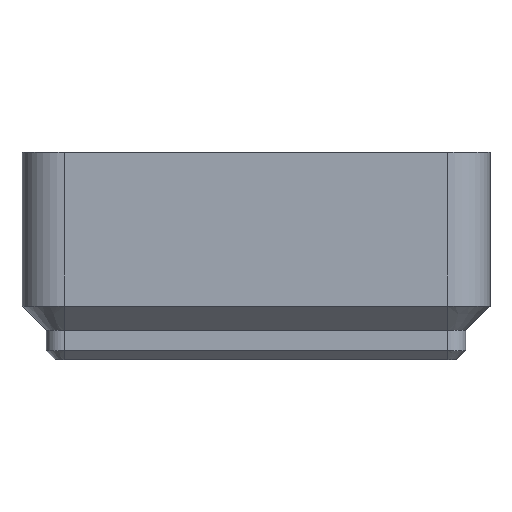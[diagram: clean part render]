
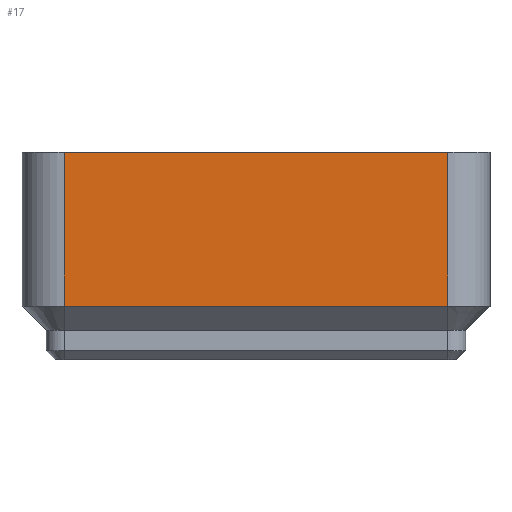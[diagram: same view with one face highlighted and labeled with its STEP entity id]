
A CAD part, left-side view. The second image highlights one B-rep face of the part: STEP entity #17.
In plain terms, the highlighted planar face has unit normal (-1, 0, 0).
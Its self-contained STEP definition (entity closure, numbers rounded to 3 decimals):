
#17 = ADVANCED_FACE('',(#18),#32,.T.);
#18 = FACE_BOUND('',#19,.T.);
#19 = EDGE_LOOP('',(#20,#55,#83,#111));
#20 = ORIENTED_EDGE('',*,*,#21,.T.);
#21 = EDGE_CURVE('',#22,#24,#26,.T.);
#22 = VERTEX_POINT('',#23);
#23 = CARTESIAN_POINT('',(-20.75,-17.,4.75));
#24 = VERTEX_POINT('',#25);
#25 = CARTESIAN_POINT('',(-20.75,-17.,18.4));
#26 = SURFACE_CURVE('',#27,(#31,#43),.PCURVE_S1.);
#27 = LINE('',#28,#29);
#28 = CARTESIAN_POINT('',(-20.75,-17.,4.75));
#29 = VECTOR('',#30,1.);
#30 = DIRECTION('',(0.,0.,1.));
#31 = PCURVE('',#32,#37);
#32 = PLANE('',#33);
#33 = AXIS2_PLACEMENT_3D('',#34,#35,#36);
#34 = CARTESIAN_POINT('',(-20.75,-17.,4.75));
#35 = DIRECTION('',(-1.,0.,0.));
#36 = DIRECTION('',(0.,1.,0.));
#37 = DEFINITIONAL_REPRESENTATION('',(#38),#42);
#38 = LINE('',#39,#40);
#39 = CARTESIAN_POINT('',(0.,0.));
#40 = VECTOR('',#41,1.);
#41 = DIRECTION('',(0.,-1.));
#42 = ( GEOMETRIC_REPRESENTATION_CONTEXT(2) 
PARAMETRIC_REPRESENTATION_CONTEXT() REPRESENTATION_CONTEXT('2D SPACE',''
  ) );
#43 = PCURVE('',#44,#49);
#44 = CYLINDRICAL_SURFACE('',#45,3.75);
#45 = AXIS2_PLACEMENT_3D('',#46,#47,#48);
#46 = CARTESIAN_POINT('',(-17.,-17.,4.75));
#47 = DIRECTION('',(0.,0.,-1.));
#48 = DIRECTION('',(-1.,0.,0.));
#49 = DEFINITIONAL_REPRESENTATION('',(#50),#54);
#50 = LINE('',#51,#52);
#51 = CARTESIAN_POINT('',(6.283,0.));
#52 = VECTOR('',#53,1.);
#53 = DIRECTION('',(0.,-1.));
#54 = ( GEOMETRIC_REPRESENTATION_CONTEXT(2) 
PARAMETRIC_REPRESENTATION_CONTEXT() REPRESENTATION_CONTEXT('2D SPACE',''
  ) );
#55 = ORIENTED_EDGE('',*,*,#56,.T.);
#56 = EDGE_CURVE('',#24,#57,#59,.T.);
#57 = VERTEX_POINT('',#58);
#58 = CARTESIAN_POINT('',(-20.75,17.,18.4));
#59 = SURFACE_CURVE('',#60,(#64,#71),.PCURVE_S1.);
#60 = LINE('',#61,#62);
#61 = CARTESIAN_POINT('',(-20.75,0.,18.4));
#62 = VECTOR('',#63,1.);
#63 = DIRECTION('',(0.,1.,0.));
#64 = PCURVE('',#32,#65);
#65 = DEFINITIONAL_REPRESENTATION('',(#66),#70);
#66 = LINE('',#67,#68);
#67 = CARTESIAN_POINT('',(17.,-13.65));
#68 = VECTOR('',#69,1.);
#69 = DIRECTION('',(1.,0.));
#70 = ( GEOMETRIC_REPRESENTATION_CONTEXT(2) 
PARAMETRIC_REPRESENTATION_CONTEXT() REPRESENTATION_CONTEXT('2D SPACE',''
  ) );
#71 = PCURVE('',#72,#77);
#72 = PLANE('',#73);
#73 = AXIS2_PLACEMENT_3D('',#74,#75,#76);
#74 = CARTESIAN_POINT('',(-20.75,0.,18.4));
#75 = DIRECTION('',(-0.726,0.,-0.688));
#76 = DIRECTION('',(0.,-1.,-0.));
#77 = DEFINITIONAL_REPRESENTATION('',(#78),#82);
#78 = LINE('',#79,#80);
#79 = CARTESIAN_POINT('',(0.,0.));
#80 = VECTOR('',#81,1.);
#81 = DIRECTION('',(-1.,0.));
#82 = ( GEOMETRIC_REPRESENTATION_CONTEXT(2) 
PARAMETRIC_REPRESENTATION_CONTEXT() REPRESENTATION_CONTEXT('2D SPACE',''
  ) );
#83 = ORIENTED_EDGE('',*,*,#84,.F.);
#84 = EDGE_CURVE('',#85,#57,#87,.T.);
#85 = VERTEX_POINT('',#86);
#86 = CARTESIAN_POINT('',(-20.75,17.,4.75));
#87 = SURFACE_CURVE('',#88,(#92,#99),.PCURVE_S1.);
#88 = LINE('',#89,#90);
#89 = CARTESIAN_POINT('',(-20.75,17.,4.75));
#90 = VECTOR('',#91,1.);
#91 = DIRECTION('',(0.,0.,1.));
#92 = PCURVE('',#32,#93);
#93 = DEFINITIONAL_REPRESENTATION('',(#94),#98);
#94 = LINE('',#95,#96);
#95 = CARTESIAN_POINT('',(34.,0.));
#96 = VECTOR('',#97,1.);
#97 = DIRECTION('',(0.,-1.));
#98 = ( GEOMETRIC_REPRESENTATION_CONTEXT(2) 
PARAMETRIC_REPRESENTATION_CONTEXT() REPRESENTATION_CONTEXT('2D SPACE',''
  ) );
#99 = PCURVE('',#100,#105);
#100 = CYLINDRICAL_SURFACE('',#101,3.75);
#101 = AXIS2_PLACEMENT_3D('',#102,#103,#104);
#102 = CARTESIAN_POINT('',(-17.,17.,4.75));
#103 = DIRECTION('',(0.,0.,-1.));
#104 = DIRECTION('',(-1.,0.,0.));
#105 = DEFINITIONAL_REPRESENTATION('',(#106),#110);
#106 = LINE('',#107,#108);
#107 = CARTESIAN_POINT('',(0.,0.));
#108 = VECTOR('',#109,1.);
#109 = DIRECTION('',(0.,-1.));
#110 = ( GEOMETRIC_REPRESENTATION_CONTEXT(2) 
PARAMETRIC_REPRESENTATION_CONTEXT() REPRESENTATION_CONTEXT('2D SPACE',''
  ) );
#111 = ORIENTED_EDGE('',*,*,#112,.F.);
#112 = EDGE_CURVE('',#22,#85,#113,.T.);
#113 = SURFACE_CURVE('',#114,(#118,#125),.PCURVE_S1.);
#114 = LINE('',#115,#116);
#115 = CARTESIAN_POINT('',(-20.75,0.,4.75));
#116 = VECTOR('',#117,1.);
#117 = DIRECTION('',(0.,1.,0.));
#118 = PCURVE('',#32,#119);
#119 = DEFINITIONAL_REPRESENTATION('',(#120),#124);
#120 = LINE('',#121,#122);
#121 = CARTESIAN_POINT('',(17.,0.));
#122 = VECTOR('',#123,1.);
#123 = DIRECTION('',(1.,0.));
#124 = ( GEOMETRIC_REPRESENTATION_CONTEXT(2) 
PARAMETRIC_REPRESENTATION_CONTEXT() REPRESENTATION_CONTEXT('2D SPACE',''
  ) );
#125 = PCURVE('',#126,#131);
#126 = PLANE('',#127);
#127 = AXIS2_PLACEMENT_3D('',#128,#129,#130);
#128 = CARTESIAN_POINT('',(-20.75,0.,4.75));
#129 = DIRECTION('',(-0.707,0.,-0.707));
#130 = DIRECTION('',(0.,-1.,-0.));
#131 = DEFINITIONAL_REPRESENTATION('',(#132),#136);
#132 = LINE('',#133,#134);
#133 = CARTESIAN_POINT('',(0.,0.));
#134 = VECTOR('',#135,1.);
#135 = DIRECTION('',(-1.,0.));
#136 = ( GEOMETRIC_REPRESENTATION_CONTEXT(2) 
PARAMETRIC_REPRESENTATION_CONTEXT() REPRESENTATION_CONTEXT('2D SPACE',''
  ) );
